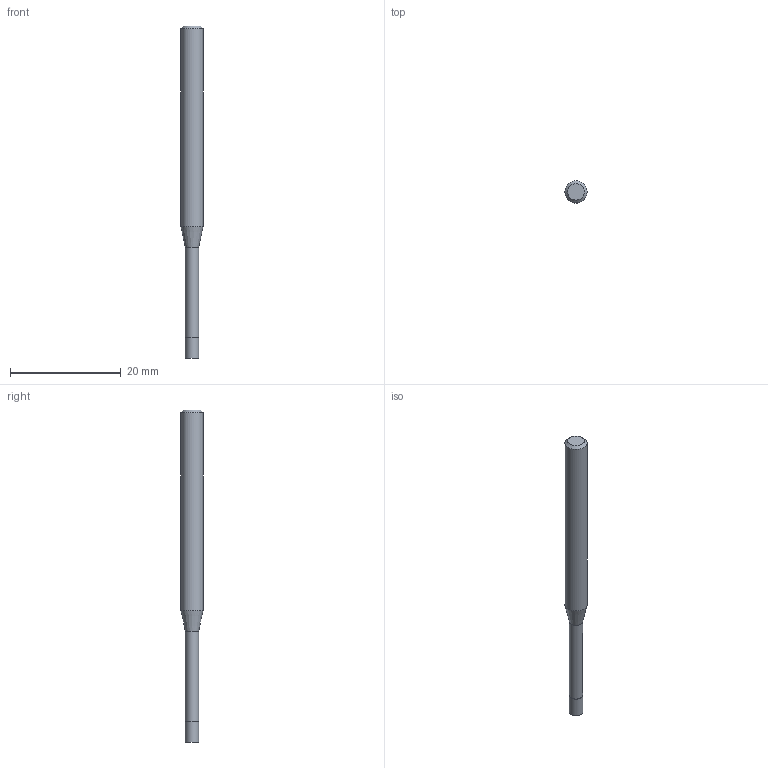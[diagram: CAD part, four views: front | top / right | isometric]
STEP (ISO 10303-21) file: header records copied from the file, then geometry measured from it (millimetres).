
FILE_DESCRIPTION((''),'2;1');
FILE_NAME('C:\Users\nsx150\AppData\Local\Temp\Mastercam 2021\17T8Q8S9EB\TEMP.step','2021-04-21T14:28:09',(''),(''),'STEP Write','Mastercam 2021 ... CNC Software, Inc.','');
FILE_SCHEMA(('AUTOMOTIVE_DESIGN'));
Length unit declared in the file: millimetre
Products named in the file (1): None
Bounding box: 4 x 4 x 60 mm (x, y, z)
Volume: 576.7 mm3; surface area: 668.9 mm2
Topology: 2 solids, 2 shells, 9 faces, 12 edges, 7 vertices
Faces by surface type: plane 4, cylinder 3, cone 2
Full cylindrical faces by diameter (mm): 2.4 x1, 2.5 x1, 4 x1
Entity records: 211 total; most frequent: DIRECTION 36, CARTESIAN_POINT 25, AXIS2_PLACEMENT_3D 18, ORIENTED_EDGE 14, EDGE_LOOP 14, STYLED_ITEM 12, ADVANCED_FACE 9, FACE_BOUND 8
